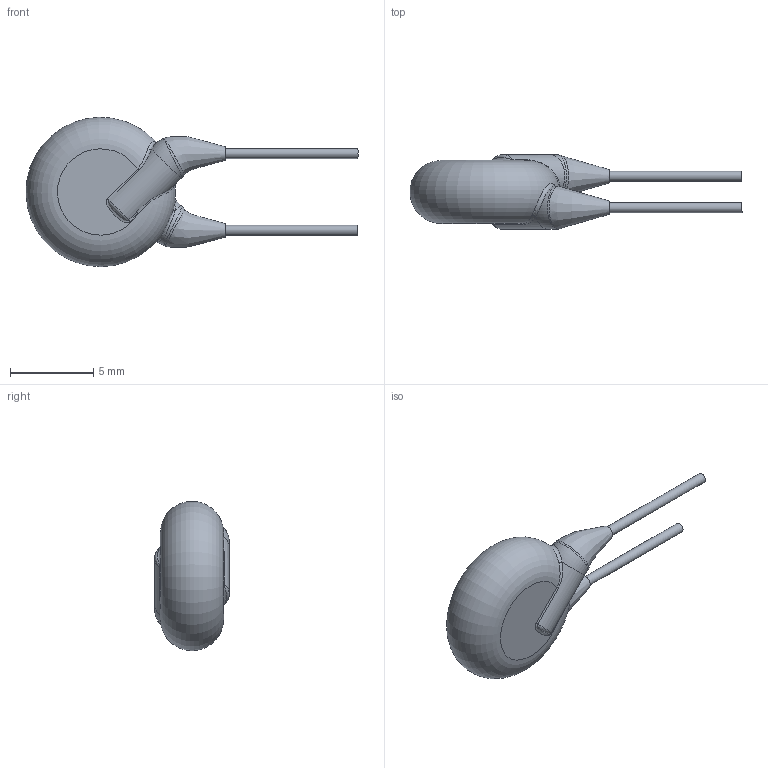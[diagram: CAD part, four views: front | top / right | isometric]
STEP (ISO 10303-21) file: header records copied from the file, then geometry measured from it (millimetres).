
FILE_DESCRIPTION(/* description */ (''),/* implementation_level */ '2;1');
FILE_NAME(/* name */ 'I:\Marketing\M6t1\3D-Models\Zchng-Werk-3\Upload for homepage\Roederstein\WYO\Y5U_250-440\WYO222MCMBD0KR\WYO222MCMBD0KR.stp',/* time_stamp */ '2018-03-21T10:55:14+01:00',/* author */ ('sheinrich'),/* organization */ (''),/* preprocessor_version */ 'ST-DEVELOPER v16.1',/* originating_system */ 'Autodesk Inventor 2016',/* authorisation */ '');
FILE_SCHEMA (('AUTOMOTIVE_DESIGN { 1 0 10303 214 3 1 1 }'));
Length unit declared in the file: centimetre
Products named in the file (1): WYO222MCMBD0KR
Bounding box: 20 x 4.5 x 8.99 mm (x, y, z)
Volume: 234.5 mm3; surface area: 256.8 mm2
Topology: 1 solids, 1 shells, 31 faces, 66 edges, 39 vertices
Faces by surface type: bspline 12, cylinder 8, plane 6, torus 5
Full cylindrical faces by diameter (mm): 0.6 x2
Entity records: 1660 total; most frequent: CARTESIAN_POINT 1027, ORIENTED_EDGE 116, DIRECTION 100, EDGE_CURVE 58, AXIS2_PLACEMENT_3D 46, EDGE_LOOP 38, VERTEX_POINT 36, STYLED_ITEM 32
